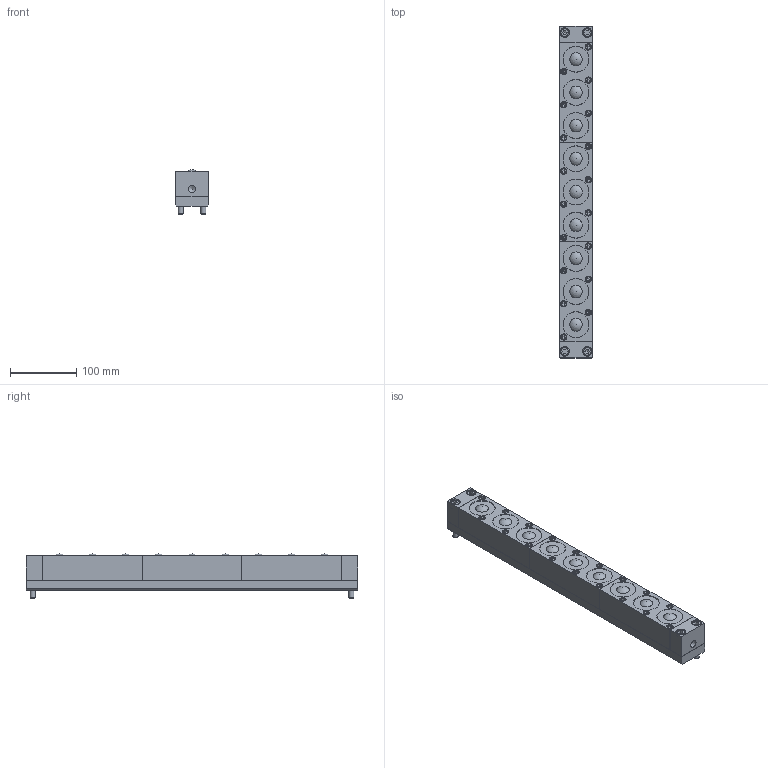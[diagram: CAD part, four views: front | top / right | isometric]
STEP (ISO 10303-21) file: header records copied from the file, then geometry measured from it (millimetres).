
FILE_DESCRIPTION(/* description */ (''),/* implementation_level */ '2;1');
FILE_NAME(/* name */ 'Z:\34-Tei\01-web 3Dデータ\41-ISR-50S型\ISR-50S-500-A.stp',/* time_stamp */ '2015-01-16T09:35:18+09:00',/* author */ ('yamaki'),/* organization */ (''),/* preprocessor_version */ 'ST-DEVELOPER v15.6',/* originating_system */ 'Autodesk Inventor 2015',/* authorisation */ '');
FILE_SCHEMA (('AUTOMOTIVE_DESIGN { 1 0 10303 214 3 1 1 }'));
Length unit declared in the file: millimetre
Products named in the file (5): 4200AT-01-500; 六角穴付きボルト-M8x55; 4200AT-00; 4200AT-03; ISR-50S
Bounding box: 49.5 x 500 x 67 mm (x, y, z)
Volume: 1216071.3 mm3; surface area: 283165.3 mm2
Topology: 15 solids, 15 shells, 485 faces, 1009 edges, 646 vertices
Faces by surface type: plane 316, cylinder 94, cone 42, torus 24, sphere 9
Full cylindrical faces by diameter (mm): 8 x2, 8.5 x18, 9 x2, 9.5 x18, 10.5 x1, 13 x4, 14.5 x4, 31.7 x9, 38.5 x9, 39 x9, 42 x18
Entity records: 4959 total; most frequent: CARTESIAN_POINT 880, DIRECTION 800, ORIENTED_EDGE 682, EDGE_CURVE 341, AXIS2_PLACEMENT_3D 291, EDGE_LOOP 280, VERTEX_POINT 245, LINE 218
